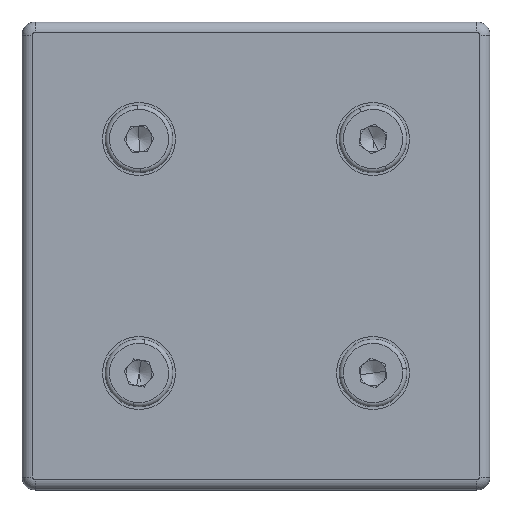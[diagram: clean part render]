
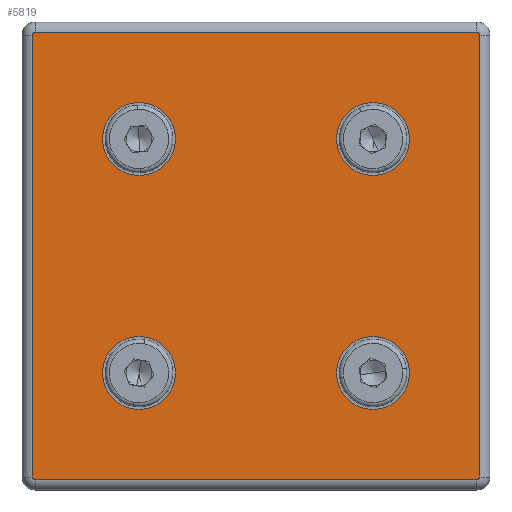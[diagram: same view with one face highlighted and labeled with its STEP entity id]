
A CAD part, front view. The second image highlights one B-rep face of the part: STEP entity #5819.
In plain terms, the highlighted planar face has unit normal (0, -1, 0).
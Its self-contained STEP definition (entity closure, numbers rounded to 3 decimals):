
#35 = EDGE_CURVE ( 'NONE', #5638, #5158, #1971, .T. ) ;
#108 = CARTESIAN_POINT ( 'NONE',  ( 647.875, 887.927, 1296.325 ) ) ;
#175 = AXIS2_PLACEMENT_3D ( 'NONE', #6570, #2091, #3696 ) ;
#209 = DIRECTION ( 'NONE',  ( 0., -1., 0. ) ) ;
#332 = ORIENTED_EDGE ( 'NONE', *, *, #6660, .F. ) ;
#335 = FACE_BOUND ( 'NONE', #2796, .T. ) ;
#364 = DIRECTION ( 'NONE',  ( 0., -1., 0. ) ) ;
#413 = CARTESIAN_POINT ( 'NONE',  ( 685.875, 887.927, 1296.325 ) ) ;
#437 = CARTESIAN_POINT ( 'NONE',  ( 692.875, 887.927, 1296.325 ) ) ;
#554 = AXIS2_PLACEMENT_3D ( 'NONE', #437, #2723, #1016 ) ;
#567 = VERTEX_POINT ( 'NONE', #1064 ) ;
#727 = EDGE_LOOP ( 'NONE', ( #1510, #1883, #5601, #4210, #3300, #4266, #6853, #2396 ) ) ;
#754 = ORIENTED_EDGE ( 'NONE', *, *, #901, .F. ) ;
#805 = EDGE_CURVE ( 'NONE', #868, #2001, #3310, .T. ) ;
#868 = VERTEX_POINT ( 'NONE', #2979 ) ;
#881 = EDGE_LOOP ( 'NONE', ( #3088, #6679 ) ) ;
#901 = EDGE_CURVE ( 'NONE', #5373, #567, #3903, .T. ) ;
#955 = DIRECTION ( 'NONE',  ( 0., -1., 0. ) ) ;
#1000 = EDGE_CURVE ( 'NONE', #2381, #868, #4261, .T. ) ;
#1016 = DIRECTION ( 'NONE',  ( -1., 0., 0. ) ) ;
#1064 = CARTESIAN_POINT ( 'NONE',  ( 654.875, 887.927, 1296.325 ) ) ;
#1103 = CARTESIAN_POINT ( 'NONE',  ( 627.875, 887.927, 1361.825 ) ) ;
#1109 = ORIENTED_EDGE ( 'NONE', *, *, #35, .F. ) ;
#1181 = VERTEX_POINT ( 'NONE', #1103 ) ;
#1218 = AXIS2_PLACEMENT_3D ( 'NONE', #1429, #364, #3608 ) ;
#1264 = DIRECTION ( 'NONE',  ( -1., 0., 0. ) ) ;
#1429 = CARTESIAN_POINT ( 'NONE',  ( 647.875, 887.927, 1341.325 ) ) ;
#1462 = DIRECTION ( 'NONE',  ( -1., 0., 0. ) ) ;
#1473 = VERTEX_POINT ( 'NONE', #3256 ) ;
#1510 = ORIENTED_EDGE ( 'NONE', *, *, #1000, .T. ) ;
#1740 = EDGE_CURVE ( 'NONE', #1825, #3840, #5604, .T. ) ;
#1768 = EDGE_CURVE ( 'NONE', #1816, #2275, #4951, .T. ) ;
#1816 = VERTEX_POINT ( 'NONE', #6022 ) ;
#1825 = VERTEX_POINT ( 'NONE', #6217 ) ;
#1837 = ORIENTED_EDGE ( 'NONE', *, *, #4908, .F. ) ;
#1883 = ORIENTED_EDGE ( 'NONE', *, *, #805, .T. ) ;
#1919 = DIRECTION ( 'NONE',  ( 0., -1., 0. ) ) ;
#1940 = CIRCLE ( 'NONE', #6869, 7. ) ;
#1971 = CIRCLE ( 'NONE', #554, 7. ) ;
#2001 = VERTEX_POINT ( 'NONE', #4776 ) ;
#2091 = DIRECTION ( 'NONE',  ( 0., -1., 0. ) ) ;
#2099 = VECTOR ( 'NONE', #1462, 1000. ) ;
#2275 = VERTEX_POINT ( 'NONE', #5122 ) ;
#2312 = LINE ( 'NONE', #7394, #2499 ) ;
#2313 = DIRECTION ( 'NONE',  ( -1., 0., 0. ) ) ;
#2381 = VERTEX_POINT ( 'NONE', #5524 ) ;
#2396 = ORIENTED_EDGE ( 'NONE', *, *, #5870, .T. ) ;
#2404 = CARTESIAN_POINT ( 'NONE',  ( 640.875, 887.927, 1296.325 ) ) ;
#2467 = DIRECTION ( 'NONE',  ( -1., 0., 0. ) ) ;
#2499 = VECTOR ( 'NONE', #5169, 1000. ) ;
#2562 = CARTESIAN_POINT ( 'NONE',  ( 692.875, 887.927, 1296.325 ) ) ;
#2623 = FACE_BOUND ( 'NONE', #3556, .T. ) ;
#2665 = CIRCLE ( 'NONE', #5667, 7. ) ;
#2688 = PLANE ( 'NONE',  #7186 ) ;
#2700 = AXIS2_PLACEMENT_3D ( 'NONE', #108, #4748, #2313 ) ;
#2723 = DIRECTION ( 'NONE',  ( 0., -1., 0. ) ) ;
#2768 = CARTESIAN_POINT ( 'NONE',  ( 669.173, 887.927, 1317.314 ) ) ;
#2796 = EDGE_LOOP ( 'NONE', ( #754, #1837 ) ) ;
#2912 = DIRECTION ( 'NONE',  ( 0., -1., 0. ) ) ;
#2934 = EDGE_CURVE ( 'NONE', #6842, #4138, #7021, .T. ) ;
#2979 = CARTESIAN_POINT ( 'NONE',  ( 627.875, 887.927, 1275.825 ) ) ;
#3012 = CARTESIAN_POINT ( 'NONE',  ( 712.875, 887.927, 1361.825 ) ) ;
#3052 = AXIS2_PLACEMENT_3D ( 'NONE', #4110, #6409, #6459 ) ;
#3088 = ORIENTED_EDGE ( 'NONE', *, *, #1768, .F. ) ;
#3120 = CARTESIAN_POINT ( 'NONE',  ( 692.875, 887.927, 1341.325 ) ) ;
#3170 = FACE_BOUND ( 'NONE', #881, .T. ) ;
#3181 = AXIS2_PLACEMENT_3D ( 'NONE', #4877, #5868, #1264 ) ;
#3240 = DIRECTION ( 'NONE',  ( -1., 0., 0. ) ) ;
#3256 = CARTESIAN_POINT ( 'NONE',  ( 627.375, 887.927, 1361.325 ) ) ;
#3300 = ORIENTED_EDGE ( 'NONE', *, *, #2934, .T. ) ;
#3310 = LINE ( 'NONE', #5647, #5704 ) ;
#3348 = DIRECTION ( 'NONE',  ( 0., 0., 1. ) ) ;
#3556 = EDGE_LOOP ( 'NONE', ( #1109, #4301 ) ) ;
#3583 = EDGE_CURVE ( 'NONE', #1181, #1473, #5563, .T. ) ;
#3608 = DIRECTION ( 'NONE',  ( -1., 0., 0. ) ) ;
#3696 = DIRECTION ( 'NONE',  ( -1., 0., 0. ) ) ;
#3784 = CIRCLE ( 'NONE', #5603, 0.5 ) ;
#3840 = VERTEX_POINT ( 'NONE', #4320 ) ;
#3903 = CIRCLE ( 'NONE', #7268, 7. ) ;
#4065 = DIRECTION ( 'NONE',  ( -1., 0., 0. ) ) ;
#4110 = CARTESIAN_POINT ( 'NONE',  ( 712.875, 887.927, 1361.325 ) ) ;
#4138 = VERTEX_POINT ( 'NONE', #3012 ) ;
#4210 = ORIENTED_EDGE ( 'NONE', *, *, #5911, .T. ) ;
#4261 = CIRCLE ( 'NONE', #3181, 0.5 ) ;
#4266 = ORIENTED_EDGE ( 'NONE', *, *, #5008, .T. ) ;
#4301 = ORIENTED_EDGE ( 'NONE', *, *, #6600, .F. ) ;
#4319 = LINE ( 'NONE', #6625, #2099 ) ;
#4320 = CARTESIAN_POINT ( 'NONE',  ( 685.875, 887.927, 1341.325 ) ) ;
#4385 = DIRECTION ( 'NONE',  ( 0., -1., 0. ) ) ;
#4414 = FACE_BOUND ( 'NONE', #6086, .T. ) ;
#4478 = CARTESIAN_POINT ( 'NONE',  ( 713.375, 887.927, 1276.325 ) ) ;
#4748 = DIRECTION ( 'NONE',  ( 0., -1., 0. ) ) ;
#4776 = CARTESIAN_POINT ( 'NONE',  ( 712.875, 887.927, 1275.825 ) ) ;
#4842 = DIRECTION ( 'NONE',  ( -1., 0., 0. ) ) ;
#4846 = CIRCLE ( 'NONE', #2700, 7. ) ;
#4869 = EDGE_CURVE ( 'NONE', #2275, #1816, #5940, .T. ) ;
#4877 = CARTESIAN_POINT ( 'NONE',  ( 627.875, 887.927, 1276.325 ) ) ;
#4908 = EDGE_CURVE ( 'NONE', #567, #5373, #4846, .T. ) ;
#4948 = DIRECTION ( 'NONE',  ( -1., 0., 0. ) ) ;
#4951 = CIRCLE ( 'NONE', #1218, 7. ) ;
#4991 = CARTESIAN_POINT ( 'NONE',  ( 699.875, 887.927, 1296.325 ) ) ;
#5008 = EDGE_CURVE ( 'NONE', #4138, #1181, #4319, .T. ) ;
#5053 = CARTESIAN_POINT ( 'NONE',  ( 713.375, 887.927, 1317.314 ) ) ;
#5122 = CARTESIAN_POINT ( 'NONE',  ( 654.875, 887.927, 1341.325 ) ) ;
#5138 = LINE ( 'NONE', #5053, #7066 ) ;
#5158 = VERTEX_POINT ( 'NONE', #4991 ) ;
#5169 = DIRECTION ( 'NONE',  ( 0., 0., -1. ) ) ;
#5266 = EDGE_CURVE ( 'NONE', #2001, #7286, #3784, .T. ) ;
#5276 = CARTESIAN_POINT ( 'NONE',  ( 647.875, 887.927, 1296.325 ) ) ;
#5373 = VERTEX_POINT ( 'NONE', #2404 ) ;
#5524 = CARTESIAN_POINT ( 'NONE',  ( 627.375, 887.927, 1276.325 ) ) ;
#5563 = CIRCLE ( 'NONE', #175, 0.5 ) ;
#5581 = AXIS2_PLACEMENT_3D ( 'NONE', #6105, #955, #3240 ) ;
#5601 = ORIENTED_EDGE ( 'NONE', *, *, #5266, .T. ) ;
#5603 = AXIS2_PLACEMENT_3D ( 'NONE', #6196, #4385, #4948 ) ;
#5604 = CIRCLE ( 'NONE', #5960, 7. ) ;
#5638 = VERTEX_POINT ( 'NONE', #413 ) ;
#5647 = CARTESIAN_POINT ( 'NONE',  ( 669.173, 887.927, 1275.825 ) ) ;
#5665 = CARTESIAN_POINT ( 'NONE',  ( 692.875, 887.927, 1341.325 ) ) ;
#5667 = AXIS2_PLACEMENT_3D ( 'NONE', #2562, #6480, #6726 ) ;
#5704 = VECTOR ( 'NONE', #7339, 1000. ) ;
#5739 = DIRECTION ( 'NONE',  ( 0., -1., 0. ) ) ;
#5819 = ADVANCED_FACE ( 'NONE', ( #3170, #4414, #335, #2623, #6075 ), #2688, .T. ) ;
#5868 = DIRECTION ( 'NONE',  ( 0., -1., 0. ) ) ;
#5870 = EDGE_CURVE ( 'NONE', #1473, #2381, #2312, .T. ) ;
#5897 = CARTESIAN_POINT ( 'NONE',  ( 713.375, 887.927, 1361.325 ) ) ;
#5911 = EDGE_CURVE ( 'NONE', #7286, #6842, #5138, .T. ) ;
#5940 = CIRCLE ( 'NONE', #5581, 7. ) ;
#5960 = AXIS2_PLACEMENT_3D ( 'NONE', #5665, #2912, #2467 ) ;
#6022 = CARTESIAN_POINT ( 'NONE',  ( 640.875, 887.927, 1341.325 ) ) ;
#6075 = FACE_OUTER_BOUND ( 'NONE', #727, .T. ) ;
#6086 = EDGE_LOOP ( 'NONE', ( #332, #6857 ) ) ;
#6105 = CARTESIAN_POINT ( 'NONE',  ( 647.875, 887.927, 1341.325 ) ) ;
#6196 = CARTESIAN_POINT ( 'NONE',  ( 712.875, 887.927, 1276.325 ) ) ;
#6217 = CARTESIAN_POINT ( 'NONE',  ( 699.875, 887.927, 1341.325 ) ) ;
#6257 = DIRECTION ( 'NONE',  ( 0., 0., -1. ) ) ;
#6409 = DIRECTION ( 'NONE',  ( 0., -1., 0. ) ) ;
#6459 = DIRECTION ( 'NONE',  ( -1., 0., 0. ) ) ;
#6480 = DIRECTION ( 'NONE',  ( 0., -1., 0. ) ) ;
#6570 = CARTESIAN_POINT ( 'NONE',  ( 627.875, 887.927, 1361.325 ) ) ;
#6600 = EDGE_CURVE ( 'NONE', #5158, #5638, #2665, .T. ) ;
#6625 = CARTESIAN_POINT ( 'NONE',  ( 669.173, 887.927, 1361.825 ) ) ;
#6660 = EDGE_CURVE ( 'NONE', #3840, #1825, #1940, .T. ) ;
#6679 = ORIENTED_EDGE ( 'NONE', *, *, #4869, .F. ) ;
#6726 = DIRECTION ( 'NONE',  ( -1., 0., 0. ) ) ;
#6842 = VERTEX_POINT ( 'NONE', #5897 ) ;
#6853 = ORIENTED_EDGE ( 'NONE', *, *, #3583, .T. ) ;
#6857 = ORIENTED_EDGE ( 'NONE', *, *, #1740, .F. ) ;
#6869 = AXIS2_PLACEMENT_3D ( 'NONE', #3120, #1919, #4842 ) ;
#7021 = CIRCLE ( 'NONE', #3052, 0.5 ) ;
#7066 = VECTOR ( 'NONE', #3348, 1000. ) ;
#7186 = AXIS2_PLACEMENT_3D ( 'NONE', #2768, #5739, #6257 ) ;
#7268 = AXIS2_PLACEMENT_3D ( 'NONE', #5276, #209, #4065 ) ;
#7286 = VERTEX_POINT ( 'NONE', #4478 ) ;
#7339 = DIRECTION ( 'NONE',  ( 1., 0., 0. ) ) ;
#7394 = CARTESIAN_POINT ( 'NONE',  ( 627.375, 887.927, 1317.314 ) ) ;
